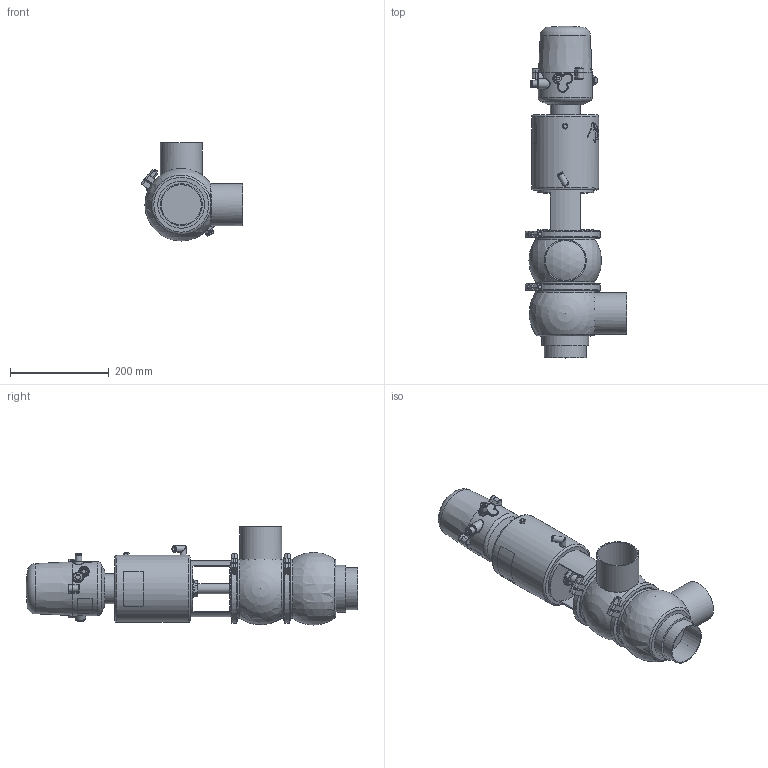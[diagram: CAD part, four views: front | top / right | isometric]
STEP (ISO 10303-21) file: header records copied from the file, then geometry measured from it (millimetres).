
FILE_DESCRIPTION (( 'STEP AP214' ), '1' );
FILE_NAME ('INNOVA K H W DIN 080 T3 AS NC & C-TOP S_10.240.16.0073.STEP', '2024-08-06T08:53:52', ( '' ), ( '' ), 'SwSTEP 2.0', 'SolidWorks 2023', '' );
FILE_SCHEMA (( 'AUTOMOTIVE_DESIGN' ));
Length unit declared in the file: millimetre
Products named in the file (8): 10.240.15.0006_DIN 080; 10.426.15.0001_C-TOP S - 1 EV; 10.240.15.0001_DN 080; INNOVA K H W DIN 080 T3 AS NC & C-TOP S_10.240.16.0073; 10.240.15.0002_DIN 080; 10.240.15.0014_T3 AS P0; 10.240.15.0017_Estàndard; 10.240.15.0010_DN 080
Assembly tree (8 placements, depth 2):
  INNOVA K H W DIN 080 T3 AS NC & C-TOP S_10.240.16.0073
    10.240.15.0006_DIN 080
    10.240.15.0002_DIN 080
    10.240.15.0010_DN 080
    10.240.15.0014_T3 AS P0
    10.240.15.0017_Estàndard
    10.426.15.0001_C-TOP S - 1 EV
    10.240.15.0001_DN 080  x2
Bounding box: 206.43 x 672 x 198.5 mm (x, y, z)
Volume: 7069233.3 mm3; surface area: 546026.9 mm2
Topology: 8 solids, 8 shells, 1172 faces, 2843 edges, 1893 vertices
Faces by surface type: plane 410, cylinder 356, cone 201, bspline 160, torus 37, sphere 8
Full cylindrical faces by diameter (mm): 0.371 x17, 0.512 x16, 0.658 x16, 0.795 x16, 0.94 x15, 1.098 x15, 1.241 x13, 1.382 x13, 1.523 x11, 1.669 x10, 2.201 x1, 4 x2, 5.5 x2, 6 x2, 6.15 x1, 8 x6, 8.5 x1, 10 x1, 10.5 x1, 11 x2, 12.5 x3, 13 x2, 13.5 x2, 16 x1, 17 x3, 20 x3, 20.5 x1, 22 x2, 31 x1, 34.5 x3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
Entity records: 58088 total; most frequent: CARTESIAN_POINT 27869, ORIENTED_EDGE 4520, DIRECTION 3651, EDGE_CURVE 2260, VERTEX_POINT 1607, EDGE_LOOP 1567, AXIS2_PLACEMENT_3D 1497, FACE_OUTER_BOUND 1329
